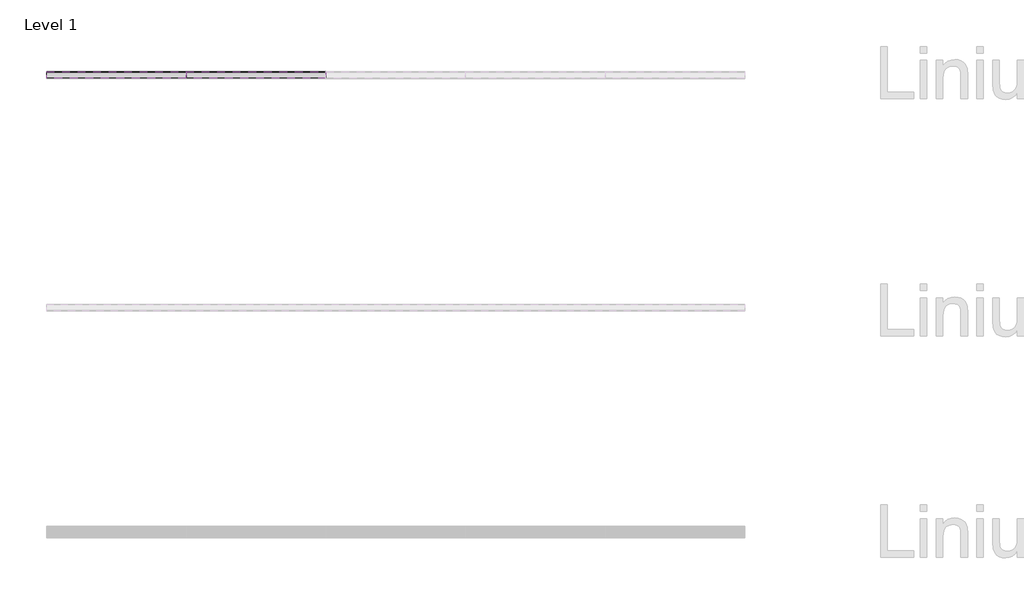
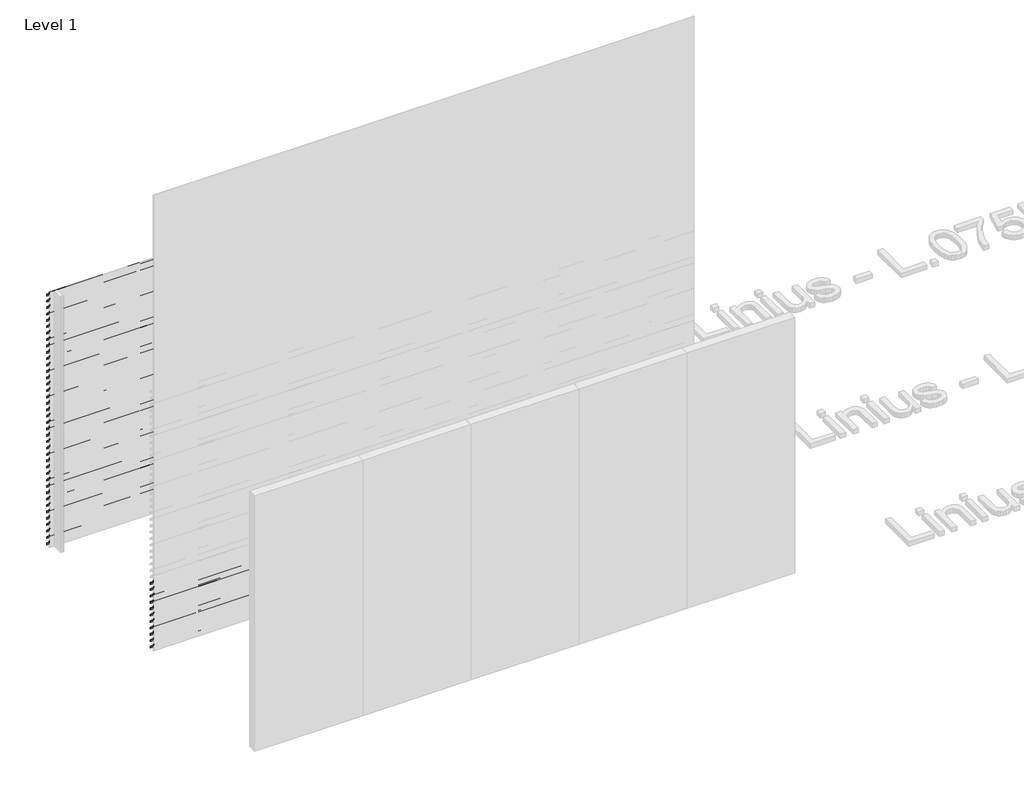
# One storey, part 11 of 55: 85 proxies.
"""IFC4 building model written with IfcOpenShell, lengths in millimetres."""

import ifcopenshell
import ifcopenshell.guid

model = None  # the IFC model being written
_history = None  # IfcOwnerHistory: only IFC2X3 demands one
_inside = {}  # id of a spatial element -> (the spatial element, [elements in it])
_under = {}  # id of a project, library or spatial element -> (it, [spatial elements below it])
_declared = {}  # id of a project -> (the project, [libraries it declares])
_typed = {}  # id of a type object -> (the type object, [elements of that type])
_made_of = {}  # id of a material, layer set ... -> (it, [elements and type objects made of it])


def new_model(schema):
    """Start an empty IFC model of exactly this schema.

    Asked for "IFC4X3", IfcOpenShell would pick the latest addendum, in which some entities
    have other attributes; the version numbers below select the first issue.
    IFC2X3 requires an IfcOwnerHistory on every rooted entity: one is made here for all.
    """
    global model, _history
    if schema == "IFC4X3":
        model = ifcopenshell.file(schema_version=(4, 3, 0, 0))
    else:
        model = ifcopenshell.file(schema=schema)
    _inside.clear()
    _under.clear()
    _declared.clear()
    _typed.clear()
    _made_of.clear()
    _history = None
    if model.schema == "IFC2X3":
        org = make("IfcOrganization", Name="unknown")
        user = make(
            "IfcPersonAndOrganization",
            ThePerson=make("IfcPerson", FamilyName="unknown"),
            TheOrganization=org,
        )
        app = make(
            "IfcApplication",
            ApplicationDeveloper=org,
            Version="unknown",
            ApplicationFullName="unknown",
            ApplicationIdentifier="unknown",
        )
        _history = make(
            "IfcOwnerHistory",
            OwningUser=user,
            OwningApplication=app,
            ChangeAction="ADDED",
            CreationDate=0,
        )
    return model


def make(cls, **values):
    """One entity of the class cls with the attributes given. An attribute that is None is left unset."""
    return model.create_entity(
        cls, **{name: value for name, value in values.items() if value is not None}
    )


def rooted(cls, **values):
    """An entity with a GlobalId (a new one), such as an element, a storey or a relation."""
    return make(cls, GlobalId=ifcopenshell.guid.new(), OwnerHistory=_history, **values)


def si_unit(unit_type, name, prefix=None):
    """IfcSIUnit, for example si_unit("LENGTHUNIT", "METRE", prefix="MILLI")."""
    return make("IfcSIUnit", UnitType=unit_type, Prefix=prefix, Name=name)


def assignment(units):
    """IfcUnitAssignment: the units of a project."""
    return None if units is None else make("IfcUnitAssignment", Units=units)


def point(xyz):
    """IfcCartesianPoint."""
    return None if xyz is None else make("IfcCartesianPoint", Coordinates=xyz)


def direction(xyz):
    """IfcDirection."""
    return None if xyz is None else make("IfcDirection", DirectionRatios=xyz)


def frame(location, z_axis=None, x_axis=None):
    """IfcAxis2Placement3D, a coordinate frame: its origin and axes. An axis left out is left unset."""
    return make(
        "IfcAxis2Placement3D",
        Location=point(location),
        Axis=direction(z_axis),
        RefDirection=direction(x_axis),
    )


def origin():
    """The frame at (0, 0, 0) with its axes left unset."""
    return frame((0.0, 0.0, 0.0))


def place(relative_to, where):
    """IfcLocalPlacement: puts the frame where relative to a parent placement (None: the world)."""
    return make(
        "IfcLocalPlacement", PlacementRelTo=relative_to, RelativePlacement=where
    )


def context(
    kind, dimensions, precision=None, world=None, true_north=None, identifier=None
):
    """IfcGeometricRepresentationContext, for example the 3D "Model" context."""
    return make(
        "IfcGeometricRepresentationContext",
        ContextIdentifier=identifier,
        ContextType=kind,
        CoordinateSpaceDimension=dimensions,
        Precision=precision,
        WorldCoordinateSystem=world,
        TrueNorth=true_north,
    )


def project(units=None, contexts=None):
    """IfcProject with its units and contexts."""
    return rooted(
        "IfcProject",
        Name="project",
        RepresentationContexts=contexts,
        UnitsInContext=assignment(units),
    )


def spatial(cls, under=None, at=None, **own):
    """A site, building, storey or space (cls), placed at a placement, below another one or the project."""
    s = rooted(cls, ObjectPlacement=at, **own)
    if under is not None:
        _under.setdefault(under.id(), (under, []))[1].append(s)
    return s


def polyline(points):
    """IfcPolyline through the points."""
    return make("IfcPolyline", Points=[point(p) for p in points])


def outline(outer, holes=None, kind="AREA"):
    """IfcArbitraryClosedProfileDef: a profile drawn as a closed curve; with holes, ...WithVoids."""
    if holes is None:
        return make("IfcArbitraryClosedProfileDef", ProfileType=kind, OuterCurve=outer)
    return make(
        "IfcArbitraryProfileDefWithVoids",
        ProfileType=kind,
        OuterCurve=outer,
        InnerCurves=holes,
    )


def extrude(swept, where, along, depth):
    """IfcExtrudedAreaSolid: the profile swept, set in the frame where, extruded along a direction by depth."""
    return make(
        "IfcExtrudedAreaSolid",
        SweptArea=swept,
        Position=where,
        ExtrudedDirection=direction(along),
        Depth=depth,
    )


def shape(context_of_items, identifier, shape_type, items):
    """IfcShapeRepresentation: the items that make up one representation, for example the "Body"."""
    return make(
        "IfcShapeRepresentation",
        ContextOfItems=context_of_items,
        RepresentationIdentifier=identifier,
        RepresentationType=shape_type,
        Items=items,
    )


def made_of(thing, what):
    """Note that an element or type object is made of a material, layer set ...; save() writes the relation."""
    if what is not None:
        _made_of.setdefault(what.id(), (what, []))[1].append(thing)
    return thing


def element(
    cls,
    number,
    at=None,
    inside=None,
    cuts=None,
    type_object=None,
    material=None,
    context=None,
    identifier="Body",
    shape_type=None,
    held_by="IfcProductDefinitionShape",
    body=None,
    shapes=None,
    **own,
):
    """One element of the class cls, such as IfcWall. Its Tag is "e" and its number.

    at: its placement. inside: the storey or other place that contains it. cuts: it is an
    opening in that element (IfcRelVoidsElement). A single representation is given by context,
    identifier, shape_type and body (its items); several are given by shapes. held_by: the class
    of the entity that holds the representations. save() writes the other relations.
    """
    e = rooted(cls, Tag="e%d" % number, ObjectPlacement=at, **own)
    if body is not None:
        shapes = [shape(context, identifier, shape_type, body)]
    if shapes is not None:
        e.Representation = make(held_by, Representations=shapes)
    if inside is not None:
        _inside.setdefault(inside.id(), (inside, []))[1].append(e)
    if cuts is not None:
        rooted(
            "IfcRelVoidsElement", RelatingBuildingElement=cuts, RelatedOpeningElement=e
        )
    if type_object is not None:
        _typed.setdefault(type_object.id(), (type_object, []))[1].append(e)
    return made_of(e, material)


def aggregate(whole, parts):
    """IfcRelAggregates: a whole, such as a stair, and the parts it consists of."""
    return rooted("IfcRelAggregates", RelatingObject=whole, RelatedObjects=parts)


def save(model, path):
    """Write the relations noted so far, then the file.

    IfcRelAggregates (storeys below a building ...), IfcRelContainedInSpatialStructure (elements
    in a storey), IfcRelDefinesByType, IfcRelAssociatesMaterial and IfcRelDeclares: one each for
    every whole, place, type object, material and project.
    """
    for whole, parts in _under.values():
        aggregate(whole, parts)
    for where, things in _inside.values():
        rooted(
            "IfcRelContainedInSpatialStructure",
            RelatedElements=things,
            RelatingStructure=where,
        )
    for kind, things in _typed.values():
        rooted("IfcRelDefinesByType", RelatedObjects=things, RelatingType=kind)
    for what, things in _made_of.values():
        rooted("IfcRelAssociatesMaterial", RelatedObjects=things, RelatingMaterial=what)
    for by, libraries in _declared.values():
        rooted("IfcRelDeclares", RelatingContext=by, RelatedDefinitions=libraries)
    model.write(path)


model = new_model("IFC4")

# Units and contexts
model_context = context("Model", 3, world=origin())
ifc_project = project(units=[si_unit("LENGTHUNIT", "METRE", prefix="MILLI")], contexts=[model_context])

# Site, building, storey
site = spatial("IfcSite", under=ifc_project)
building = spatial("IfcBuilding", under=site)
storey = spatial("IfcBuildingStorey", under=building, Name="Level 1", Elevation=0.0)

# Proxies
placement = place(None, origin())
element("IfcBuildingElementProxy", 1, Name="Wall Sweeps", at=placement, inside=storey, context=model_context, shape_type="SweptSolid", body=[
    extrude(outline(polyline([(14081.0540136, 2943.5), (14081.0540136, 2923.5), (14079.8040136, 2924.2216933), (14079.8040136, 2942.7872415), (14026.0540136, 2980.3158044), (14026.0540136, 3000.0), (14027.3040136, 3000.0), (14027.3040136, 2981.0285629), (14081.0540136, 2943.5)])), frame((466.6208097, 0.0, 0.0), z_axis=(1.0, 0.0, 0.0), x_axis=(0.0, 1.0, 0.0)), (0.0, 0.0, 1.0), 1200.0000002),
])
element("IfcBuildingElementProxy", 2, Name="Wall Sweeps", at=placement, inside=storey, context=model_context, shape_type="SweptSolid", body=[
    extrude(outline(polyline([(14081.0540136, 2868.5), (14081.0540136, 2848.5), (14079.8040136, 2849.2216933), (14079.8040136, 2867.7872415), (14026.0540136, 2905.3158044), (14026.0540136, 2925.0), (14027.3040136, 2925.0), (14027.3040136, 2906.0285629), (14081.0540136, 2868.5)])), frame((466.6208097, 0.0, 0.0), z_axis=(1.0, 0.0, 0.0), x_axis=(0.0, 1.0, 0.0)), (0.0, 0.0, 1.0), 1200.0000002),
])
element("IfcBuildingElementProxy", 3, Name="Wall Sweeps", at=placement, inside=storey, context=model_context, shape_type="SweptSolid", body=[
    extrude(outline(polyline([(14081.0540136, 2793.5), (14081.0540136, 2773.5), (14079.8040136, 2774.2216933), (14079.8040136, 2792.7872415), (14026.0540136, 2830.3158044), (14026.0540136, 2850.0), (14027.3040136, 2850.0), (14027.3040136, 2831.0285629), (14081.0540136, 2793.5)])), frame((466.6208097, 0.0, 0.0), z_axis=(1.0, 0.0, 0.0), x_axis=(0.0, 1.0, 0.0)), (0.0, 0.0, 1.0), 1200.0000002),
])
element("IfcBuildingElementProxy", 4, Name="Wall Sweeps", at=placement, inside=storey, context=model_context, shape_type="SweptSolid", body=[
    extrude(outline(polyline([(14081.0540136, 2718.5), (14081.0540136, 2698.5), (14079.8040136, 2699.2216933), (14079.8040136, 2717.7872415), (14026.0540136, 2755.3158044), (14026.0540136, 2775.0), (14027.3040136, 2775.0), (14027.3040136, 2756.0285629), (14081.0540136, 2718.5)])), frame((466.6208097, 0.0, 0.0), z_axis=(1.0, 0.0, 0.0), x_axis=(0.0, 1.0, 0.0)), (0.0, 0.0, 1.0), 1200.0000002),
])
element("IfcBuildingElementProxy", 5, Name="Wall Sweeps", at=placement, inside=storey, context=model_context, shape_type="SweptSolid", body=[
    extrude(outline(polyline([(14081.0540136, 2643.5), (14081.0540136, 2623.5), (14079.8040136, 2624.2216933), (14079.8040136, 2642.7872415), (14026.0540136, 2680.3158044), (14026.0540136, 2700.0), (14027.3040136, 2700.0), (14027.3040136, 2681.0285629), (14081.0540136, 2643.5)])), frame((466.6208097, 0.0, 0.0), z_axis=(1.0, 0.0, 0.0), x_axis=(0.0, 1.0, 0.0)), (0.0, 0.0, 1.0), 1200.0000002),
])
element("IfcBuildingElementProxy", 6, Name="Wall Sweeps", at=placement, inside=storey, context=model_context, shape_type="SweptSolid", body=[
    extrude(outline(polyline([(14081.0540136, 2568.5), (14081.0540136, 2548.5), (14079.8040136, 2549.2216933), (14079.8040136, 2567.7872415), (14026.0540136, 2605.3158044), (14026.0540136, 2625.0), (14027.3040136, 2625.0), (14027.3040136, 2606.0285629), (14081.0540136, 2568.5)])), frame((466.6208097, 0.0, 0.0), z_axis=(1.0, 0.0, 0.0), x_axis=(0.0, 1.0, 0.0)), (0.0, 0.0, 1.0), 1200.0000002),
])
element("IfcBuildingElementProxy", 7, Name="Wall Sweeps", at=placement, inside=storey, context=model_context, shape_type="SweptSolid", body=[
    extrude(outline(polyline([(14081.0540136, 2493.5), (14081.0540136, 2473.5), (14079.8040136, 2474.2216933), (14079.8040136, 2492.7872415), (14026.0540136, 2530.3158044), (14026.0540136, 2550.0), (14027.3040136, 2550.0), (14027.3040136, 2531.0285629), (14081.0540136, 2493.5)])), frame((466.6208097, 0.0, 0.0), z_axis=(1.0, 0.0, 0.0), x_axis=(0.0, 1.0, 0.0)), (0.0, 0.0, 1.0), 1200.0000002),
])
element("IfcBuildingElementProxy", 8, Name="Wall Sweeps", at=placement, inside=storey, context=model_context, shape_type="SweptSolid", body=[
    extrude(outline(polyline([(14081.0540136, 2418.5), (14081.0540136, 2398.5), (14079.8040136, 2399.2216933), (14079.8040136, 2417.7872415), (14026.0540136, 2455.3158044), (14026.0540136, 2475.0), (14027.3040136, 2475.0), (14027.3040136, 2456.0285629), (14081.0540136, 2418.5)])), frame((466.6208097, 0.0, 0.0), z_axis=(1.0, 0.0, 0.0), x_axis=(0.0, 1.0, 0.0)), (0.0, 0.0, 1.0), 1200.0000002),
])
element("IfcBuildingElementProxy", 9, Name="Wall Sweeps", at=placement, inside=storey, context=model_context, shape_type="SweptSolid", body=[
    extrude(outline(polyline([(14081.0540136, 2343.5), (14081.0540136, 2323.5), (14079.8040136, 2324.2216933), (14079.8040136, 2342.7872415), (14026.0540136, 2380.3158044), (14026.0540136, 2400.0), (14027.3040136, 2400.0), (14027.3040136, 2381.0285629), (14081.0540136, 2343.5)])), frame((466.6208097, 0.0, 0.0), z_axis=(1.0, 0.0, 0.0), x_axis=(0.0, 1.0, 0.0)), (0.0, 0.0, 1.0), 1200.0000002),
])
element("IfcBuildingElementProxy", 10, Name="Wall Sweeps", at=placement, inside=storey, context=model_context, shape_type="SweptSolid", body=[
    extrude(outline(polyline([(14081.0540136, 2268.5), (14081.0540136, 2248.5), (14079.8040136, 2249.2216933), (14079.8040136, 2267.7872415), (14026.0540136, 2305.3158044), (14026.0540136, 2325.0), (14027.3040136, 2325.0), (14027.3040136, 2306.0285629), (14081.0540136, 2268.5)])), frame((466.6208097, 0.0, 0.0), z_axis=(1.0, 0.0, 0.0), x_axis=(0.0, 1.0, 0.0)), (0.0, 0.0, 1.0), 1200.0000002),
])
element("IfcBuildingElementProxy", 11, Name="Wall Sweeps", at=placement, inside=storey, context=model_context, shape_type="SweptSolid", body=[
    extrude(outline(polyline([(14081.0540136, 2193.5), (14081.0540136, 2173.5), (14079.8040136, 2174.2216933), (14079.8040136, 2192.7872415), (14026.0540136, 2230.3158044), (14026.0540136, 2250.0), (14027.3040136, 2250.0), (14027.3040136, 2231.0285629), (14081.0540136, 2193.5)])), frame((466.6208097, 0.0, 0.0), z_axis=(1.0, 0.0, 0.0), x_axis=(0.0, 1.0, 0.0)), (0.0, 0.0, 1.0), 1200.0000002),
])
element("IfcBuildingElementProxy", 12, Name="Wall Sweeps", at=placement, inside=storey, context=model_context, shape_type="SweptSolid", body=[
    extrude(outline(polyline([(14081.0540136, 2118.5), (14081.0540136, 2098.5), (14079.8040136, 2099.2216933), (14079.8040136, 2117.7872415), (14026.0540136, 2155.3158044), (14026.0540136, 2175.0), (14027.3040136, 2175.0), (14027.3040136, 2156.0285629), (14081.0540136, 2118.5)])), frame((466.6208097, 0.0, 0.0), z_axis=(1.0, 0.0, 0.0), x_axis=(0.0, 1.0, 0.0)), (0.0, 0.0, 1.0), 1200.0000002),
])
element("IfcBuildingElementProxy", 13, Name="Wall Sweeps", at=placement, inside=storey, context=model_context, shape_type="SweptSolid", body=[
    extrude(outline(polyline([(14081.0540136, 2043.5), (14081.0540136, 2023.5), (14079.8040136, 2024.2216933), (14079.8040136, 2042.7872415), (14026.0540136, 2080.3158044), (14026.0540136, 2100.0), (14027.3040136, 2100.0), (14027.3040136, 2081.0285629), (14081.0540136, 2043.5)])), frame((466.6208097, 0.0, 0.0), z_axis=(1.0, 0.0, 0.0), x_axis=(0.0, 1.0, 0.0)), (0.0, 0.0, 1.0), 1200.0000002),
])
element("IfcBuildingElementProxy", 14, Name="Wall Sweeps", at=placement, inside=storey, context=model_context, shape_type="SweptSolid", body=[
    extrude(outline(polyline([(14081.0540136, 1968.5), (14081.0540136, 1948.5), (14079.8040136, 1949.2216933), (14079.8040136, 1967.7872415), (14026.0540136, 2005.3158044), (14026.0540136, 2025.0), (14027.3040136, 2025.0), (14027.3040136, 2006.0285629), (14081.0540136, 1968.5)])), frame((466.6208097, 0.0, 0.0), z_axis=(1.0, 0.0, 0.0), x_axis=(0.0, 1.0, 0.0)), (0.0, 0.0, 1.0), 1200.0000002),
])
element("IfcBuildingElementProxy", 15, Name="Wall Sweeps", at=placement, inside=storey, context=model_context, shape_type="SweptSolid", body=[
    extrude(outline(polyline([(14081.0540136, 1893.5), (14081.0540136, 1873.5), (14079.8040136, 1874.2216933), (14079.8040136, 1892.7872415), (14026.0540136, 1930.3158044), (14026.0540136, 1950.0), (14027.3040136, 1950.0), (14027.3040136, 1931.0285629), (14081.0540136, 1893.5)])), frame((466.6208097, 0.0, 0.0), z_axis=(1.0, 0.0, 0.0), x_axis=(0.0, 1.0, 0.0)), (0.0, 0.0, 1.0), 1200.0000002),
])
element("IfcBuildingElementProxy", 16, Name="Wall Sweeps", at=placement, inside=storey, context=model_context, shape_type="SweptSolid", body=[
    extrude(outline(polyline([(14081.0540136, 1818.5), (14081.0540136, 1798.5), (14079.8040136, 1799.2216933), (14079.8040136, 1817.7872415), (14026.0540136, 1855.3158044), (14026.0540136, 1875.0), (14027.3040136, 1875.0), (14027.3040136, 1856.0285629), (14081.0540136, 1818.5)])), frame((466.6208097, 0.0, 0.0), z_axis=(1.0, 0.0, 0.0), x_axis=(0.0, 1.0, 0.0)), (0.0, 0.0, 1.0), 1200.0000002),
])
element("IfcBuildingElementProxy", 17, Name="Wall Sweeps", at=placement, inside=storey, context=model_context, shape_type="SweptSolid", body=[
    extrude(outline(polyline([(14081.0540136, 1743.5), (14081.0540136, 1723.5), (14079.8040136, 1724.2216933), (14079.8040136, 1742.7872415), (14026.0540136, 1780.3158044), (14026.0540136, 1800.0), (14027.3040136, 1800.0), (14027.3040136, 1781.0285629), (14081.0540136, 1743.5)])), frame((466.6208097, 0.0, 0.0), z_axis=(1.0, 0.0, 0.0), x_axis=(0.0, 1.0, 0.0)), (0.0, 0.0, 1.0), 1200.0000002),
])
element("IfcBuildingElementProxy", 18, Name="Wall Sweeps", at=placement, inside=storey, context=model_context, shape_type="SweptSolid", body=[
    extrude(outline(polyline([(14081.0540136, 1668.5), (14081.0540136, 1648.5), (14079.8040136, 1649.2216933), (14079.8040136, 1667.7872415), (14026.0540136, 1705.3158044), (14026.0540136, 1725.0), (14027.3040136, 1725.0), (14027.3040136, 1706.0285629), (14081.0540136, 1668.5)])), frame((466.6208097, 0.0, 0.0), z_axis=(1.0, 0.0, 0.0), x_axis=(0.0, 1.0, 0.0)), (0.0, 0.0, 1.0), 1200.0000002),
])
element("IfcBuildingElementProxy", 19, Name="Wall Sweeps", at=placement, inside=storey, context=model_context, shape_type="SweptSolid", body=[
    extrude(outline(polyline([(14081.0540136, 1593.5), (14081.0540136, 1573.5), (14079.8040136, 1574.2216933), (14079.8040136, 1592.7872415), (14026.0540136, 1630.3158044), (14026.0540136, 1650.0), (14027.3040136, 1650.0), (14027.3040136, 1631.0285629), (14081.0540136, 1593.5)])), frame((466.6208097, 0.0, 0.0), z_axis=(1.0, 0.0, 0.0), x_axis=(0.0, 1.0, 0.0)), (0.0, 0.0, 1.0), 1200.0000002),
])
element("IfcBuildingElementProxy", 20, Name="Wall Sweeps", at=placement, inside=storey, context=model_context, shape_type="SweptSolid", body=[
    extrude(outline(polyline([(14081.0540136, 1518.5), (14081.0540136, 1498.5), (14079.8040136, 1499.2216933), (14079.8040136, 1517.7872415), (14026.0540136, 1555.3158044), (14026.0540136, 1575.0), (14027.3040136, 1575.0), (14027.3040136, 1556.0285629), (14081.0540136, 1518.5)])), frame((466.6208097, 0.0, 0.0), z_axis=(1.0, 0.0, 0.0), x_axis=(0.0, 1.0, 0.0)), (0.0, 0.0, 1.0), 1200.0000002),
])
element("IfcBuildingElementProxy", 21, Name="Wall Sweeps", at=placement, inside=storey, context=model_context, shape_type="SweptSolid", body=[
    extrude(outline(polyline([(14081.0540136, 1443.5), (14081.0540136, 1423.5), (14079.8040136, 1424.2216933), (14079.8040136, 1442.7872415), (14026.0540136, 1480.3158044), (14026.0540136, 1500.0), (14027.3040136, 1500.0), (14027.3040136, 1481.0285629), (14081.0540136, 1443.5)])), frame((466.6208097, 0.0, 0.0), z_axis=(1.0, 0.0, 0.0), x_axis=(0.0, 1.0, 0.0)), (0.0, 0.0, 1.0), 1200.0000002),
])
element("IfcBuildingElementProxy", 22, Name="Wall Sweeps", at=placement, inside=storey, context=model_context, shape_type="SweptSolid", body=[
    extrude(outline(polyline([(14081.0540136, 1368.5), (14081.0540136, 1348.5), (14079.8040136, 1349.2216933), (14079.8040136, 1367.7872415), (14026.0540136, 1405.3158044), (14026.0540136, 1425.0), (14027.3040136, 1425.0), (14027.3040136, 1406.0285629), (14081.0540136, 1368.5)])), frame((466.6208097, 0.0, 0.0), z_axis=(1.0, 0.0, 0.0), x_axis=(0.0, 1.0, 0.0)), (0.0, 0.0, 1.0), 1200.0000002),
])
element("IfcBuildingElementProxy", 23, Name="Wall Sweeps", at=placement, inside=storey, context=model_context, shape_type="SweptSolid", body=[
    extrude(outline(polyline([(14081.0540136, 1293.5), (14081.0540136, 1273.5), (14079.8040136, 1274.2216933), (14079.8040136, 1292.7872415), (14026.0540136, 1330.3158044), (14026.0540136, 1350.0), (14027.3040136, 1350.0), (14027.3040136, 1331.0285629), (14081.0540136, 1293.5)])), frame((466.6208097, 0.0, 0.0), z_axis=(1.0, 0.0, 0.0), x_axis=(0.0, 1.0, 0.0)), (0.0, 0.0, 1.0), 1200.0000002),
])
element("IfcBuildingElementProxy", 24, Name="Wall Sweeps", at=placement, inside=storey, context=model_context, shape_type="SweptSolid", body=[
    extrude(outline(polyline([(14081.0540136, 1218.5), (14081.0540136, 1198.5), (14079.8040136, 1199.2216933), (14079.8040136, 1217.7872415), (14026.0540136, 1255.3158044), (14026.0540136, 1275.0), (14027.3040136, 1275.0), (14027.3040136, 1256.0285629), (14081.0540136, 1218.5)])), frame((466.6208097, 0.0, 0.0), z_axis=(1.0, 0.0, 0.0), x_axis=(0.0, 1.0, 0.0)), (0.0, 0.0, 1.0), 1200.0000002),
])
element("IfcBuildingElementProxy", 25, Name="Wall Sweeps", at=placement, inside=storey, context=model_context, shape_type="SweptSolid", body=[
    extrude(outline(polyline([(14081.0540136, 1143.5), (14081.0540136, 1123.5), (14079.8040136, 1124.2216933), (14079.8040136, 1142.7872415), (14026.0540136, 1180.3158044), (14026.0540136, 1200.0), (14027.3040136, 1200.0), (14027.3040136, 1181.0285629), (14081.0540136, 1143.5)])), frame((466.6208097, 0.0, 0.0), z_axis=(1.0, 0.0, 0.0), x_axis=(0.0, 1.0, 0.0)), (0.0, 0.0, 1.0), 1200.0000002),
])
element("IfcBuildingElementProxy", 26, Name="Wall Sweeps", at=placement, inside=storey, context=model_context, shape_type="SweptSolid", body=[
    extrude(outline(polyline([(14081.0540136, 1068.5), (14081.0540136, 1048.5), (14079.8040136, 1049.2216933), (14079.8040136, 1067.7872415), (14026.0540136, 1105.3158044), (14026.0540136, 1125.0), (14027.3040136, 1125.0), (14027.3040136, 1106.0285629), (14081.0540136, 1068.5)])), frame((466.6208097, 0.0, 0.0), z_axis=(1.0, 0.0, 0.0), x_axis=(0.0, 1.0, 0.0)), (0.0, 0.0, 1.0), 1200.0000002),
])
element("IfcBuildingElementProxy", 27, Name="Wall Sweeps", at=placement, inside=storey, context=model_context, shape_type="SweptSolid", body=[
    extrude(outline(polyline([(14081.0540136, 993.5), (14081.0540136, 973.5), (14079.8040136, 974.2216933), (14079.8040136, 992.7872415), (14026.0540136, 1030.3158044), (14026.0540136, 1050.0), (14027.3040136, 1050.0), (14027.3040136, 1031.0285629), (14081.0540136, 993.5)])), frame((466.6208097, 0.0, 0.0), z_axis=(1.0, 0.0, 0.0), x_axis=(0.0, 1.0, 0.0)), (0.0, 0.0, 1.0), 1200.0000002),
])
element("IfcBuildingElementProxy", 28, Name="Wall Sweeps", at=placement, inside=storey, context=model_context, shape_type="SweptSolid", body=[
    extrude(outline(polyline([(14081.0540136, 918.5), (14081.0540136, 898.5), (14079.8040136, 899.2216933), (14079.8040136, 917.7872415), (14026.0540136, 955.3158044), (14026.0540136, 975.0), (14027.3040136, 975.0), (14027.3040136, 956.0285629), (14081.0540136, 918.5)])), frame((466.6208097, 0.0, 0.0), z_axis=(1.0, 0.0, 0.0), x_axis=(0.0, 1.0, 0.0)), (0.0, 0.0, 1.0), 1200.0000002),
])
element("IfcBuildingElementProxy", 29, Name="Wall Sweeps", at=placement, inside=storey, context=model_context, shape_type="SweptSolid", body=[
    extrude(outline(polyline([(14081.0540136, 843.5), (14081.0540136, 823.5), (14079.8040136, 824.2216933), (14079.8040136, 842.7872415), (14026.0540136, 880.3158044), (14026.0540136, 900.0), (14027.3040136, 900.0), (14027.3040136, 881.0285629), (14081.0540136, 843.5)])), frame((466.6208097, 0.0, 0.0), z_axis=(1.0, 0.0, 0.0), x_axis=(0.0, 1.0, 0.0)), (0.0, 0.0, 1.0), 1200.0000002),
])
element("IfcBuildingElementProxy", 30, Name="Wall Sweeps", at=placement, inside=storey, context=model_context, shape_type="SweptSolid", body=[
    extrude(outline(polyline([(14081.0540136, 768.5), (14081.0540136, 748.5), (14079.8040136, 749.2216933), (14079.8040136, 767.7872415), (14026.0540136, 805.3158044), (14026.0540136, 825.0), (14027.3040136, 825.0), (14027.3040136, 806.0285629), (14081.0540136, 768.5)])), frame((466.6208097, 0.0, 0.0), z_axis=(1.0, 0.0, 0.0), x_axis=(0.0, 1.0, 0.0)), (0.0, 0.0, 1.0), 1200.0000002),
])
element("IfcBuildingElementProxy", 31, Name="Wall Sweeps", at=placement, inside=storey, context=model_context, shape_type="SweptSolid", body=[
    extrude(outline(polyline([(14081.0540136, 693.5), (14081.0540136, 673.5), (14079.8040136, 674.2216933), (14079.8040136, 692.7872415), (14026.0540136, 730.3158044), (14026.0540136, 750.0), (14027.3040136, 750.0), (14027.3040136, 731.0285629), (14081.0540136, 693.5)])), frame((466.6208097, 0.0, 0.0), z_axis=(1.0, 0.0, 0.0), x_axis=(0.0, 1.0, 0.0)), (0.0, 0.0, 1.0), 1200.0000002),
])
element("IfcBuildingElementProxy", 32, Name="Wall Sweeps", at=placement, inside=storey, context=model_context, shape_type="SweptSolid", body=[
    extrude(outline(polyline([(14081.0540136, 618.5), (14081.0540136, 598.5), (14079.8040136, 599.2216933), (14079.8040136, 617.7872415), (14026.0540136, 655.3158044), (14026.0540136, 675.0), (14027.3040136, 675.0), (14027.3040136, 656.0285629), (14081.0540136, 618.5)])), frame((466.6208097, 0.0, 0.0), z_axis=(1.0, 0.0, 0.0), x_axis=(0.0, 1.0, 0.0)), (0.0, 0.0, 1.0), 1200.0000002),
])
element("IfcBuildingElementProxy", 33, Name="Wall Sweeps", at=placement, inside=storey, context=model_context, shape_type="SweptSolid", body=[
    extrude(outline(polyline([(14081.0540136, 543.5), (14081.0540136, 523.5), (14079.8040136, 524.2216933), (14079.8040136, 542.7872415), (14026.0540136, 580.3158044), (14026.0540136, 600.0), (14027.3040136, 600.0), (14027.3040136, 581.0285629), (14081.0540136, 543.5)])), frame((466.6208097, 0.0, 0.0), z_axis=(1.0, 0.0, 0.0), x_axis=(0.0, 1.0, 0.0)), (0.0, 0.0, 1.0), 1200.0000002),
])
element("IfcBuildingElementProxy", 34, Name="Wall Sweeps", at=placement, inside=storey, context=model_context, shape_type="SweptSolid", body=[
    extrude(outline(polyline([(14081.0540136, 468.5), (14081.0540136, 448.5), (14079.8040136, 449.2216933), (14079.8040136, 467.7872415), (14026.0540136, 505.3158044), (14026.0540136, 525.0), (14027.3040136, 525.0), (14027.3040136, 506.0285629), (14081.0540136, 468.5)])), frame((466.6208097, 0.0, 0.0), z_axis=(1.0, 0.0, 0.0), x_axis=(0.0, 1.0, 0.0)), (0.0, 0.0, 1.0), 1200.0000002),
])
element("IfcBuildingElementProxy", 35, Name="Wall Sweeps", at=placement, inside=storey, context=model_context, shape_type="SweptSolid", body=[
    extrude(outline(polyline([(14081.0540136, 393.5), (14081.0540136, 373.5), (14079.8040136, 374.2216933), (14079.8040136, 392.7872415), (14026.0540136, 430.3158044), (14026.0540136, 450.0), (14027.3040136, 450.0), (14027.3040136, 431.0285629), (14081.0540136, 393.5)])), frame((466.6208097, 0.0, 0.0), z_axis=(1.0, 0.0, 0.0), x_axis=(0.0, 1.0, 0.0)), (0.0, 0.0, 1.0), 1200.0000002),
])
element("IfcBuildingElementProxy", 36, Name="Wall Sweeps", at=placement, inside=storey, context=model_context, shape_type="SweptSolid", body=[
    extrude(outline(polyline([(14081.0540136, 318.5), (14081.0540136, 298.5), (14079.8040136, 299.2216933), (14079.8040136, 317.7872415), (14026.0540136, 355.3158044), (14026.0540136, 375.0), (14027.3040136, 375.0), (14027.3040136, 356.0285629), (14081.0540136, 318.5)])), frame((466.6208097, 0.0, 0.0), z_axis=(1.0, 0.0, 0.0), x_axis=(0.0, 1.0, 0.0)), (0.0, 0.0, 1.0), 1200.0000002),
])
element("IfcBuildingElementProxy", 37, Name="Wall Sweeps", at=placement, inside=storey, context=model_context, shape_type="SweptSolid", body=[
    extrude(outline(polyline([(14081.0540136, 243.5), (14081.0540136, 223.5), (14079.8040136, 224.2216933), (14079.8040136, 242.7872415), (14026.0540136, 280.3158044), (14026.0540136, 300.0), (14027.3040136, 300.0), (14027.3040136, 281.0285629), (14081.0540136, 243.5)])), frame((466.6208097, 0.0, 0.0), z_axis=(1.0, 0.0, 0.0), x_axis=(0.0, 1.0, 0.0)), (0.0, 0.0, 1.0), 1200.0000002),
])
element("IfcBuildingElementProxy", 38, Name="Wall Sweeps", at=placement, inside=storey, context=model_context, shape_type="SweptSolid", body=[
    extrude(outline(polyline([(14081.0540136, 168.5), (14081.0540136, 148.5), (14079.8040136, 149.2216933), (14079.8040136, 167.7872415), (14026.0540136, 205.3158044), (14026.0540136, 225.0), (14027.3040136, 225.0), (14027.3040136, 206.0285629), (14081.0540136, 168.5)])), frame((466.6208097, 0.0, 0.0), z_axis=(1.0, 0.0, 0.0), x_axis=(0.0, 1.0, 0.0)), (0.0, 0.0, 1.0), 1200.0000002),
])
element("IfcBuildingElementProxy", 39, Name="Wall Sweeps", at=placement, inside=storey, context=model_context, shape_type="SweptSolid", body=[
    extrude(outline(polyline([(14081.0540136, 93.5), (14081.0540136, 73.5), (14079.8040136, 74.2216933), (14079.8040136, 92.7872415), (14026.0540136, 130.3158044), (14026.0540136, 150.0), (14027.3040136, 150.0), (14027.3040136, 131.0285629), (14081.0540136, 93.5)])), frame((466.6208097, 0.0, 0.0), z_axis=(1.0, 0.0, 0.0), x_axis=(0.0, 1.0, 0.0)), (0.0, 0.0, 1.0), 1200.0000002),
])
element("IfcBuildingElementProxy", 40, Name="Wall Sweeps", at=placement, inside=storey, context=model_context, shape_type="SweptSolid", body=[
    extrude(outline(polyline([(14081.0540136, 18.5), (14081.0540136, -1.5), (14079.8040136, -0.7783067), (14079.8040136, 17.7872415), (14026.0540136, 55.3158044), (14026.0540136, 75.0), (14027.3040136, 75.0), (14027.3040136, 56.0285629), (14081.0540136, 18.5)])), frame((466.6208097, 0.0, 0.0), z_axis=(1.0, 0.0, 0.0), x_axis=(0.0, 1.0, 0.0)), (0.0, 0.0, 1.0), 1200.0000002),
])
element("IfcBuildingElementProxy", 41, Name="Wall Sweeps", at=placement, inside=storey, context=model_context, shape_type="SweptSolid", body=[
    extrude(outline(polyline([(14081.0540136, 2943.5), (14081.0540136, 2923.5), (14079.8040136, 2924.2216933), (14079.8040136, 2942.7872415), (14026.0540136, 2980.3158044), (14026.0540136, 3000.0), (14027.3040136, 3000.0), (14027.3040136, 2981.0285629), (14081.0540136, 2943.5)])), frame((1666.6208099, 0.0, 0.0), z_axis=(1.0, 0.0, 0.0), x_axis=(0.0, 1.0, 0.0)), (0.0, 0.0, 1.0), 1199.9999999),
])
element("IfcBuildingElementProxy", 42, Name="Wall Sweeps", at=placement, inside=storey, context=model_context, shape_type="SweptSolid", body=[
    extrude(outline(polyline([(14081.0540136, 2868.5), (14081.0540136, 2848.5), (14079.8040136, 2849.2216933), (14079.8040136, 2867.7872415), (14026.0540136, 2905.3158044), (14026.0540136, 2925.0), (14027.3040136, 2925.0), (14027.3040136, 2906.0285629), (14081.0540136, 2868.5)])), frame((1666.6208099, 0.0, 0.0), z_axis=(1.0, 0.0, 0.0), x_axis=(0.0, 1.0, 0.0)), (0.0, 0.0, 1.0), 1199.9999999),
])
element("IfcBuildingElementProxy", 43, Name="Wall Sweeps", at=placement, inside=storey, context=model_context, shape_type="SweptSolid", body=[
    extrude(outline(polyline([(14081.0540136, 2793.5), (14081.0540136, 2773.5), (14079.8040136, 2774.2216933), (14079.8040136, 2792.7872415), (14026.0540136, 2830.3158044), (14026.0540136, 2850.0), (14027.3040136, 2850.0), (14027.3040136, 2831.0285629), (14081.0540136, 2793.5)])), frame((1666.6208099, 0.0, 0.0), z_axis=(1.0, 0.0, 0.0), x_axis=(0.0, 1.0, 0.0)), (0.0, 0.0, 1.0), 1199.9999999),
])
element("IfcBuildingElementProxy", 44, Name="Wall Sweeps", at=placement, inside=storey, context=model_context, shape_type="SweptSolid", body=[
    extrude(outline(polyline([(14081.0540136, 2718.5), (14081.0540136, 2698.5), (14079.8040136, 2699.2216933), (14079.8040136, 2717.7872415), (14026.0540136, 2755.3158044), (14026.0540136, 2775.0), (14027.3040136, 2775.0), (14027.3040136, 2756.0285629), (14081.0540136, 2718.5)])), frame((1666.6208099, 0.0, 0.0), z_axis=(1.0, 0.0, 0.0), x_axis=(0.0, 1.0, 0.0)), (0.0, 0.0, 1.0), 1199.9999999),
])
element("IfcBuildingElementProxy", 45, Name="Wall Sweeps", at=placement, inside=storey, context=model_context, shape_type="SweptSolid", body=[
    extrude(outline(polyline([(14081.0540136, 2643.5), (14081.0540136, 2623.5), (14079.8040136, 2624.2216933), (14079.8040136, 2642.7872415), (14026.0540136, 2680.3158044), (14026.0540136, 2700.0), (14027.3040136, 2700.0), (14027.3040136, 2681.0285629), (14081.0540136, 2643.5)])), frame((1666.6208099, 0.0, 0.0), z_axis=(1.0, 0.0, 0.0), x_axis=(0.0, 1.0, 0.0)), (0.0, 0.0, 1.0), 1199.9999999),
])
element("IfcBuildingElementProxy", 46, Name="Wall Sweeps", at=placement, inside=storey, context=model_context, shape_type="SweptSolid", body=[
    extrude(outline(polyline([(14081.0540136, 2568.5), (14081.0540136, 2548.5), (14079.8040136, 2549.2216933), (14079.8040136, 2567.7872415), (14026.0540136, 2605.3158044), (14026.0540136, 2625.0), (14027.3040136, 2625.0), (14027.3040136, 2606.0285629), (14081.0540136, 2568.5)])), frame((1666.6208099, 0.0, 0.0), z_axis=(1.0, 0.0, 0.0), x_axis=(0.0, 1.0, 0.0)), (0.0, 0.0, 1.0), 1199.9999999),
])
element("IfcBuildingElementProxy", 47, Name="Wall Sweeps", at=placement, inside=storey, context=model_context, shape_type="SweptSolid", body=[
    extrude(outline(polyline([(14081.0540136, 2493.5), (14081.0540136, 2473.5), (14079.8040136, 2474.2216933), (14079.8040136, 2492.7872415), (14026.0540136, 2530.3158044), (14026.0540136, 2550.0), (14027.3040136, 2550.0), (14027.3040136, 2531.0285629), (14081.0540136, 2493.5)])), frame((1666.6208099, 0.0, 0.0), z_axis=(1.0, 0.0, 0.0), x_axis=(0.0, 1.0, 0.0)), (0.0, 0.0, 1.0), 1199.9999999),
])
element("IfcBuildingElementProxy", 48, Name="Wall Sweeps", at=placement, inside=storey, context=model_context, shape_type="SweptSolid", body=[
    extrude(outline(polyline([(14081.0540136, 2418.5), (14081.0540136, 2398.5), (14079.8040136, 2399.2216933), (14079.8040136, 2417.7872415), (14026.0540136, 2455.3158044), (14026.0540136, 2475.0), (14027.3040136, 2475.0), (14027.3040136, 2456.0285629), (14081.0540136, 2418.5)])), frame((1666.6208099, 0.0, 0.0), z_axis=(1.0, 0.0, 0.0), x_axis=(0.0, 1.0, 0.0)), (0.0, 0.0, 1.0), 1199.9999999),
])
element("IfcBuildingElementProxy", 49, Name="Wall Sweeps", at=placement, inside=storey, context=model_context, shape_type="SweptSolid", body=[
    extrude(outline(polyline([(14081.0540136, 2343.5), (14081.0540136, 2323.5), (14079.8040136, 2324.2216933), (14079.8040136, 2342.7872415), (14026.0540136, 2380.3158044), (14026.0540136, 2400.0), (14027.3040136, 2400.0), (14027.3040136, 2381.0285629), (14081.0540136, 2343.5)])), frame((1666.6208099, 0.0, 0.0), z_axis=(1.0, 0.0, 0.0), x_axis=(0.0, 1.0, 0.0)), (0.0, 0.0, 1.0), 1199.9999999),
])
element("IfcBuildingElementProxy", 50, Name="Wall Sweeps", at=placement, inside=storey, context=model_context, shape_type="SweptSolid", body=[
    extrude(outline(polyline([(14081.0540136, 2268.5), (14081.0540136, 2248.5), (14079.8040136, 2249.2216933), (14079.8040136, 2267.7872415), (14026.0540136, 2305.3158044), (14026.0540136, 2325.0), (14027.3040136, 2325.0), (14027.3040136, 2306.0285629), (14081.0540136, 2268.5)])), frame((1666.6208099, 0.0, 0.0), z_axis=(1.0, 0.0, 0.0), x_axis=(0.0, 1.0, 0.0)), (0.0, 0.0, 1.0), 1199.9999999),
])
element("IfcBuildingElementProxy", 51, Name="Wall Sweeps", at=placement, inside=storey, context=model_context, shape_type="SweptSolid", body=[
    extrude(outline(polyline([(14081.0540136, 2193.5), (14081.0540136, 2173.5), (14079.8040136, 2174.2216933), (14079.8040136, 2192.7872415), (14026.0540136, 2230.3158044), (14026.0540136, 2250.0), (14027.3040136, 2250.0), (14027.3040136, 2231.0285629), (14081.0540136, 2193.5)])), frame((1666.6208099, 0.0, 0.0), z_axis=(1.0, 0.0, 0.0), x_axis=(0.0, 1.0, 0.0)), (0.0, 0.0, 1.0), 1199.9999999),
])
element("IfcBuildingElementProxy", 52, Name="Wall Sweeps", at=placement, inside=storey, context=model_context, shape_type="SweptSolid", body=[
    extrude(outline(polyline([(14081.0540136, 2118.5), (14081.0540136, 2098.5), (14079.8040136, 2099.2216933), (14079.8040136, 2117.7872415), (14026.0540136, 2155.3158044), (14026.0540136, 2175.0), (14027.3040136, 2175.0), (14027.3040136, 2156.0285629), (14081.0540136, 2118.5)])), frame((1666.6208099, 0.0, 0.0), z_axis=(1.0, 0.0, 0.0), x_axis=(0.0, 1.0, 0.0)), (0.0, 0.0, 1.0), 1199.9999999),
])
element("IfcBuildingElementProxy", 53, Name="Wall Sweeps", at=placement, inside=storey, context=model_context, shape_type="SweptSolid", body=[
    extrude(outline(polyline([(14081.0540136, 2043.5), (14081.0540136, 2023.5), (14079.8040136, 2024.2216933), (14079.8040136, 2042.7872415), (14026.0540136, 2080.3158044), (14026.0540136, 2100.0), (14027.3040136, 2100.0), (14027.3040136, 2081.0285629), (14081.0540136, 2043.5)])), frame((1666.6208099, 0.0, 0.0), z_axis=(1.0, 0.0, 0.0), x_axis=(0.0, 1.0, 0.0)), (0.0, 0.0, 1.0), 1199.9999999),
])
element("IfcBuildingElementProxy", 54, Name="Wall Sweeps", at=placement, inside=storey, context=model_context, shape_type="SweptSolid", body=[
    extrude(outline(polyline([(14081.0540136, 1968.5), (14081.0540136, 1948.5), (14079.8040136, 1949.2216933), (14079.8040136, 1967.7872415), (14026.0540136, 2005.3158044), (14026.0540136, 2025.0), (14027.3040136, 2025.0), (14027.3040136, 2006.0285629), (14081.0540136, 1968.5)])), frame((1666.6208099, 0.0, 0.0), z_axis=(1.0, 0.0, 0.0), x_axis=(0.0, 1.0, 0.0)), (0.0, 0.0, 1.0), 1199.9999999),
])
element("IfcBuildingElementProxy", 55, Name="Wall Sweeps", at=placement, inside=storey, context=model_context, shape_type="SweptSolid", body=[
    extrude(outline(polyline([(14081.0540136, 1893.5), (14081.0540136, 1873.5), (14079.8040136, 1874.2216933), (14079.8040136, 1892.7872415), (14026.0540136, 1930.3158044), (14026.0540136, 1950.0), (14027.3040136, 1950.0), (14027.3040136, 1931.0285629), (14081.0540136, 1893.5)])), frame((1666.6208099, 0.0, 0.0), z_axis=(1.0, 0.0, 0.0), x_axis=(0.0, 1.0, 0.0)), (0.0, 0.0, 1.0), 1199.9999999),
])
element("IfcBuildingElementProxy", 56, Name="Wall Sweeps", at=placement, inside=storey, context=model_context, shape_type="SweptSolid", body=[
    extrude(outline(polyline([(14081.0540136, 1818.5), (14081.0540136, 1798.5), (14079.8040136, 1799.2216933), (14079.8040136, 1817.7872415), (14026.0540136, 1855.3158044), (14026.0540136, 1875.0), (14027.3040136, 1875.0), (14027.3040136, 1856.0285629), (14081.0540136, 1818.5)])), frame((1666.6208099, 0.0, 0.0), z_axis=(1.0, 0.0, 0.0), x_axis=(0.0, 1.0, 0.0)), (0.0, 0.0, 1.0), 1199.9999999),
])
element("IfcBuildingElementProxy", 57, Name="Wall Sweeps", at=placement, inside=storey, context=model_context, shape_type="SweptSolid", body=[
    extrude(outline(polyline([(14081.0540136, 1743.5), (14081.0540136, 1723.5), (14079.8040136, 1724.2216933), (14079.8040136, 1742.7872415), (14026.0540136, 1780.3158044), (14026.0540136, 1800.0), (14027.3040136, 1800.0), (14027.3040136, 1781.0285629), (14081.0540136, 1743.5)])), frame((1666.6208099, 0.0, 0.0), z_axis=(1.0, 0.0, 0.0), x_axis=(0.0, 1.0, 0.0)), (0.0, 0.0, 1.0), 1199.9999999),
])
element("IfcBuildingElementProxy", 58, Name="Wall Sweeps", at=placement, inside=storey, context=model_context, shape_type="SweptSolid", body=[
    extrude(outline(polyline([(14081.0540136, 1668.5), (14081.0540136, 1648.5), (14079.8040136, 1649.2216933), (14079.8040136, 1667.7872415), (14026.0540136, 1705.3158044), (14026.0540136, 1725.0), (14027.3040136, 1725.0), (14027.3040136, 1706.0285629), (14081.0540136, 1668.5)])), frame((1666.6208099, 0.0, 0.0), z_axis=(1.0, 0.0, 0.0), x_axis=(0.0, 1.0, 0.0)), (0.0, 0.0, 1.0), 1199.9999999),
])
element("IfcBuildingElementProxy", 59, Name="Wall Sweeps", at=placement, inside=storey, context=model_context, shape_type="SweptSolid", body=[
    extrude(outline(polyline([(14081.0540136, 1593.5), (14081.0540136, 1573.5), (14079.8040136, 1574.2216933), (14079.8040136, 1592.7872415), (14026.0540136, 1630.3158044), (14026.0540136, 1650.0), (14027.3040136, 1650.0), (14027.3040136, 1631.0285629), (14081.0540136, 1593.5)])), frame((1666.6208099, 0.0, 0.0), z_axis=(1.0, 0.0, 0.0), x_axis=(0.0, 1.0, 0.0)), (0.0, 0.0, 1.0), 1199.9999999),
])
element("IfcBuildingElementProxy", 60, Name="Wall Sweeps", at=placement, inside=storey, context=model_context, shape_type="SweptSolid", body=[
    extrude(outline(polyline([(14081.0540136, 1518.5), (14081.0540136, 1498.5), (14079.8040136, 1499.2216933), (14079.8040136, 1517.7872415), (14026.0540136, 1555.3158044), (14026.0540136, 1575.0), (14027.3040136, 1575.0), (14027.3040136, 1556.0285629), (14081.0540136, 1518.5)])), frame((1666.6208099, 0.0, 0.0), z_axis=(1.0, 0.0, 0.0), x_axis=(0.0, 1.0, 0.0)), (0.0, 0.0, 1.0), 1199.9999999),
])
element("IfcBuildingElementProxy", 61, Name="Wall Sweeps", at=placement, inside=storey, context=model_context, shape_type="SweptSolid", body=[
    extrude(outline(polyline([(14081.0540136, 1443.5), (14081.0540136, 1423.5), (14079.8040136, 1424.2216933), (14079.8040136, 1442.7872415), (14026.0540136, 1480.3158044), (14026.0540136, 1500.0), (14027.3040136, 1500.0), (14027.3040136, 1481.0285629), (14081.0540136, 1443.5)])), frame((1666.6208099, 0.0, 0.0), z_axis=(1.0, 0.0, 0.0), x_axis=(0.0, 1.0, 0.0)), (0.0, 0.0, 1.0), 1199.9999999),
])
element("IfcBuildingElementProxy", 62, Name="Wall Sweeps", at=placement, inside=storey, context=model_context, shape_type="SweptSolid", body=[
    extrude(outline(polyline([(14081.0540136, 1368.5), (14081.0540136, 1348.5), (14079.8040136, 1349.2216933), (14079.8040136, 1367.7872415), (14026.0540136, 1405.3158044), (14026.0540136, 1425.0), (14027.3040136, 1425.0), (14027.3040136, 1406.0285629), (14081.0540136, 1368.5)])), frame((1666.6208099, 0.0, 0.0), z_axis=(1.0, 0.0, 0.0), x_axis=(0.0, 1.0, 0.0)), (0.0, 0.0, 1.0), 1199.9999999),
])
element("IfcBuildingElementProxy", 63, Name="Wall Sweeps", at=placement, inside=storey, context=model_context, shape_type="SweptSolid", body=[
    extrude(outline(polyline([(14081.0540136, 1293.5), (14081.0540136, 1273.5), (14079.8040136, 1274.2216933), (14079.8040136, 1292.7872415), (14026.0540136, 1330.3158044), (14026.0540136, 1350.0), (14027.3040136, 1350.0), (14027.3040136, 1331.0285629), (14081.0540136, 1293.5)])), frame((1666.6208099, 0.0, 0.0), z_axis=(1.0, 0.0, 0.0), x_axis=(0.0, 1.0, 0.0)), (0.0, 0.0, 1.0), 1199.9999999),
])
element("IfcBuildingElementProxy", 64, Name="Wall Sweeps", at=placement, inside=storey, context=model_context, shape_type="SweptSolid", body=[
    extrude(outline(polyline([(14081.0540136, 1218.5), (14081.0540136, 1198.5), (14079.8040136, 1199.2216933), (14079.8040136, 1217.7872415), (14026.0540136, 1255.3158044), (14026.0540136, 1275.0), (14027.3040136, 1275.0), (14027.3040136, 1256.0285629), (14081.0540136, 1218.5)])), frame((1666.6208099, 0.0, 0.0), z_axis=(1.0, 0.0, 0.0), x_axis=(0.0, 1.0, 0.0)), (0.0, 0.0, 1.0), 1199.9999999),
])
element("IfcBuildingElementProxy", 65, Name="Wall Sweeps", at=placement, inside=storey, context=model_context, shape_type="SweptSolid", body=[
    extrude(outline(polyline([(14081.0540136, 1143.5), (14081.0540136, 1123.5), (14079.8040136, 1124.2216933), (14079.8040136, 1142.7872415), (14026.0540136, 1180.3158044), (14026.0540136, 1200.0), (14027.3040136, 1200.0), (14027.3040136, 1181.0285629), (14081.0540136, 1143.5)])), frame((1666.6208099, 0.0, 0.0), z_axis=(1.0, 0.0, 0.0), x_axis=(0.0, 1.0, 0.0)), (0.0, 0.0, 1.0), 1199.9999999),
])
element("IfcBuildingElementProxy", 66, Name="Wall Sweeps", at=placement, inside=storey, context=model_context, shape_type="SweptSolid", body=[
    extrude(outline(polyline([(14081.0540136, 1068.5), (14081.0540136, 1048.5), (14079.8040136, 1049.2216933), (14079.8040136, 1067.7872415), (14026.0540136, 1105.3158044), (14026.0540136, 1125.0), (14027.3040136, 1125.0), (14027.3040136, 1106.0285629), (14081.0540136, 1068.5)])), frame((1666.6208099, 0.0, 0.0), z_axis=(1.0, 0.0, 0.0), x_axis=(0.0, 1.0, 0.0)), (0.0, 0.0, 1.0), 1199.9999999),
])
element("IfcBuildingElementProxy", 67, Name="Wall Sweeps", at=placement, inside=storey, context=model_context, shape_type="SweptSolid", body=[
    extrude(outline(polyline([(14081.0540136, 993.5), (14081.0540136, 973.5), (14079.8040136, 974.2216933), (14079.8040136, 992.7872415), (14026.0540136, 1030.3158044), (14026.0540136, 1050.0), (14027.3040136, 1050.0), (14027.3040136, 1031.0285629), (14081.0540136, 993.5)])), frame((1666.6208099, 0.0, 0.0), z_axis=(1.0, 0.0, 0.0), x_axis=(0.0, 1.0, 0.0)), (0.0, 0.0, 1.0), 1199.9999999),
])
element("IfcBuildingElementProxy", 68, Name="Wall Sweeps", at=placement, inside=storey, context=model_context, shape_type="SweptSolid", body=[
    extrude(outline(polyline([(14081.0540136, 918.5), (14081.0540136, 898.5), (14079.8040136, 899.2216933), (14079.8040136, 917.7872415), (14026.0540136, 955.3158044), (14026.0540136, 975.0), (14027.3040136, 975.0), (14027.3040136, 956.0285629), (14081.0540136, 918.5)])), frame((1666.6208099, 0.0, 0.0), z_axis=(1.0, 0.0, 0.0), x_axis=(0.0, 1.0, 0.0)), (0.0, 0.0, 1.0), 1199.9999999),
])
element("IfcBuildingElementProxy", 69, Name="Wall Sweeps", at=placement, inside=storey, context=model_context, shape_type="SweptSolid", body=[
    extrude(outline(polyline([(14081.0540136, 843.5), (14081.0540136, 823.5), (14079.8040136, 824.2216933), (14079.8040136, 842.7872415), (14026.0540136, 880.3158044), (14026.0540136, 900.0), (14027.3040136, 900.0), (14027.3040136, 881.0285629), (14081.0540136, 843.5)])), frame((1666.6208099, 0.0, 0.0), z_axis=(1.0, 0.0, 0.0), x_axis=(0.0, 1.0, 0.0)), (0.0, 0.0, 1.0), 1199.9999999),
])
element("IfcBuildingElementProxy", 70, Name="Wall Sweeps", at=placement, inside=storey, context=model_context, shape_type="SweptSolid", body=[
    extrude(outline(polyline([(14081.0540136, 768.5), (14081.0540136, 748.5), (14079.8040136, 749.2216933), (14079.8040136, 767.7872415), (14026.0540136, 805.3158044), (14026.0540136, 825.0), (14027.3040136, 825.0), (14027.3040136, 806.0285629), (14081.0540136, 768.5)])), frame((1666.6208099, 0.0, 0.0), z_axis=(1.0, 0.0, 0.0), x_axis=(0.0, 1.0, 0.0)), (0.0, 0.0, 1.0), 1199.9999999),
])
element("IfcBuildingElementProxy", 71, Name="Wall Sweeps", at=placement, inside=storey, context=model_context, shape_type="SweptSolid", body=[
    extrude(outline(polyline([(14081.0540136, 693.5), (14081.0540136, 673.5), (14079.8040136, 674.2216933), (14079.8040136, 692.7872415), (14026.0540136, 730.3158044), (14026.0540136, 750.0), (14027.3040136, 750.0), (14027.3040136, 731.0285629), (14081.0540136, 693.5)])), frame((1666.6208099, 0.0, 0.0), z_axis=(1.0, 0.0, 0.0), x_axis=(0.0, 1.0, 0.0)), (0.0, 0.0, 1.0), 1199.9999999),
])
element("IfcBuildingElementProxy", 72, Name="Wall Sweeps", at=placement, inside=storey, context=model_context, shape_type="SweptSolid", body=[
    extrude(outline(polyline([(14081.0540136, 618.5), (14081.0540136, 598.5), (14079.8040136, 599.2216933), (14079.8040136, 617.7872415), (14026.0540136, 655.3158044), (14026.0540136, 675.0), (14027.3040136, 675.0), (14027.3040136, 656.0285629), (14081.0540136, 618.5)])), frame((1666.6208099, 0.0, 0.0), z_axis=(1.0, 0.0, 0.0), x_axis=(0.0, 1.0, 0.0)), (0.0, 0.0, 1.0), 1199.9999999),
])
element("IfcBuildingElementProxy", 73, Name="Wall Sweeps", at=placement, inside=storey, context=model_context, shape_type="SweptSolid", body=[
    extrude(outline(polyline([(14081.0540136, 543.5), (14081.0540136, 523.5), (14079.8040136, 524.2216933), (14079.8040136, 542.7872415), (14026.0540136, 580.3158044), (14026.0540136, 600.0), (14027.3040136, 600.0), (14027.3040136, 581.0285629), (14081.0540136, 543.5)])), frame((1666.6208099, 0.0, 0.0), z_axis=(1.0, 0.0, 0.0), x_axis=(0.0, 1.0, 0.0)), (0.0, 0.0, 1.0), 1199.9999999),
])
element("IfcBuildingElementProxy", 74, Name="Wall Sweeps", at=placement, inside=storey, context=model_context, shape_type="SweptSolid", body=[
    extrude(outline(polyline([(14081.0540136, 468.5), (14081.0540136, 448.5), (14079.8040136, 449.2216933), (14079.8040136, 467.7872415), (14026.0540136, 505.3158044), (14026.0540136, 525.0), (14027.3040136, 525.0), (14027.3040136, 506.0285629), (14081.0540136, 468.5)])), frame((1666.6208099, 0.0, 0.0), z_axis=(1.0, 0.0, 0.0), x_axis=(0.0, 1.0, 0.0)), (0.0, 0.0, 1.0), 1199.9999999),
])
element("IfcBuildingElementProxy", 75, Name="Wall Sweeps", at=placement, inside=storey, context=model_context, shape_type="SweptSolid", body=[
    extrude(outline(polyline([(12081.0540136, 768.5), (12081.0540136, 748.5), (12079.8040136, 749.2216933), (12079.8040136, 767.7872415), (12026.0540136, 805.3158044), (12026.0540136, 825.0), (12027.3040136, 825.0), (12027.3040136, 806.0285629), (12081.0540136, 768.5)])), frame((466.6208097, 0.0, 0.0), z_axis=(1.0, 0.0, 0.0), x_axis=(0.0, 1.0, 0.0)), (0.0, 0.0, 1.0), 6000.0),
])
element("IfcBuildingElementProxy", 76, Name="Wall Sweeps", at=placement, inside=storey, context=model_context, shape_type="SweptSolid", body=[
    extrude(outline(polyline([(12081.0540136, 693.5), (12081.0540136, 673.5), (12079.8040136, 674.2216933), (12079.8040136, 692.7872415), (12026.0540136, 730.3158044), (12026.0540136, 750.0), (12027.3040136, 750.0), (12027.3040136, 731.0285629), (12081.0540136, 693.5)])), frame((466.6208097, 0.0, 0.0), z_axis=(1.0, 0.0, 0.0), x_axis=(0.0, 1.0, 0.0)), (0.0, 0.0, 1.0), 6000.0),
])
element("IfcBuildingElementProxy", 77, Name="Wall Sweeps", at=placement, inside=storey, context=model_context, shape_type="SweptSolid", body=[
    extrude(outline(polyline([(12081.0540136, 618.5), (12081.0540136, 598.5), (12079.8040136, 599.2216933), (12079.8040136, 617.7872415), (12026.0540136, 655.3158044), (12026.0540136, 675.0), (12027.3040136, 675.0), (12027.3040136, 656.0285629), (12081.0540136, 618.5)])), frame((466.6208097, 0.0, 0.0), z_axis=(1.0, 0.0, 0.0), x_axis=(0.0, 1.0, 0.0)), (0.0, 0.0, 1.0), 6000.0),
])
element("IfcBuildingElementProxy", 78, Name="Wall Sweeps", at=placement, inside=storey, context=model_context, shape_type="SweptSolid", body=[
    extrude(outline(polyline([(12081.0540136, 543.5), (12081.0540136, 523.5), (12079.8040136, 524.2216933), (12079.8040136, 542.7872415), (12026.0540136, 580.3158044), (12026.0540136, 600.0), (12027.3040136, 600.0), (12027.3040136, 581.0285629), (12081.0540136, 543.5)])), frame((466.6208097, 0.0, 0.0), z_axis=(1.0, 0.0, 0.0), x_axis=(0.0, 1.0, 0.0)), (0.0, 0.0, 1.0), 6000.0),
])
element("IfcBuildingElementProxy", 79, Name="Wall Sweeps", at=placement, inside=storey, context=model_context, shape_type="SweptSolid", body=[
    extrude(outline(polyline([(12081.0540136, 468.5), (12081.0540136, 448.5), (12079.8040136, 449.2216933), (12079.8040136, 467.7872415), (12026.0540136, 505.3158044), (12026.0540136, 525.0), (12027.3040136, 525.0), (12027.3040136, 506.0285629), (12081.0540136, 468.5)])), frame((466.6208097, 0.0, 0.0), z_axis=(1.0, 0.0, 0.0), x_axis=(0.0, 1.0, 0.0)), (0.0, 0.0, 1.0), 6000.0),
])
element("IfcBuildingElementProxy", 80, Name="Wall Sweeps", at=placement, inside=storey, context=model_context, shape_type="SweptSolid", body=[
    extrude(outline(polyline([(12081.0540136, 393.5), (12081.0540136, 373.5), (12079.8040136, 374.2216933), (12079.8040136, 392.7872415), (12026.0540136, 430.3158044), (12026.0540136, 450.0), (12027.3040136, 450.0), (12027.3040136, 431.0285629), (12081.0540136, 393.5)])), frame((466.6208097, 0.0, 0.0), z_axis=(1.0, 0.0, 0.0), x_axis=(0.0, 1.0, 0.0)), (0.0, 0.0, 1.0), 6000.0),
])
element("IfcBuildingElementProxy", 81, Name="Wall Sweeps", at=placement, inside=storey, context=model_context, shape_type="SweptSolid", body=[
    extrude(outline(polyline([(12081.0540136, 318.5), (12081.0540136, 298.5), (12079.8040136, 299.2216933), (12079.8040136, 317.7872415), (12026.0540136, 355.3158044), (12026.0540136, 375.0), (12027.3040136, 375.0), (12027.3040136, 356.0285629), (12081.0540136, 318.5)])), frame((466.6208097, 0.0, 0.0), z_axis=(1.0, 0.0, 0.0), x_axis=(0.0, 1.0, 0.0)), (0.0, 0.0, 1.0), 6000.0),
])
element("IfcBuildingElementProxy", 82, Name="Wall Sweeps", at=placement, inside=storey, context=model_context, shape_type="SweptSolid", body=[
    extrude(outline(polyline([(12081.0540136, 243.5), (12081.0540136, 223.5), (12079.8040136, 224.2216933), (12079.8040136, 242.7872415), (12026.0540136, 280.3158044), (12026.0540136, 300.0), (12027.3040136, 300.0), (12027.3040136, 281.0285629), (12081.0540136, 243.5)])), frame((466.6208097, 0.0, 0.0), z_axis=(1.0, 0.0, 0.0), x_axis=(0.0, 1.0, 0.0)), (0.0, 0.0, 1.0), 6000.0),
])
element("IfcBuildingElementProxy", 83, Name="Wall Sweeps", at=placement, inside=storey, context=model_context, shape_type="SweptSolid", body=[
    extrude(outline(polyline([(12081.0540136, 168.5), (12081.0540136, 148.5), (12079.8040136, 149.2216933), (12079.8040136, 167.7872415), (12026.0540136, 205.3158044), (12026.0540136, 225.0), (12027.3040136, 225.0), (12027.3040136, 206.0285629), (12081.0540136, 168.5)])), frame((466.6208097, 0.0, 0.0), z_axis=(1.0, 0.0, 0.0), x_axis=(0.0, 1.0, 0.0)), (0.0, 0.0, 1.0), 6000.0),
])
element("IfcBuildingElementProxy", 84, Name="Wall Sweeps", at=placement, inside=storey, context=model_context, shape_type="SweptSolid", body=[
    extrude(outline(polyline([(12081.0540136, 93.5), (12081.0540136, 73.5), (12079.8040136, 74.2216933), (12079.8040136, 92.7872415), (12026.0540136, 130.3158044), (12026.0540136, 150.0), (12027.3040136, 150.0), (12027.3040136, 131.0285629), (12081.0540136, 93.5)])), frame((466.6208097, 0.0, 0.0), z_axis=(1.0, 0.0, 0.0), x_axis=(0.0, 1.0, 0.0)), (0.0, 0.0, 1.0), 6000.0),
])
element("IfcBuildingElementProxy", 85, Name="Wall Sweeps", at=placement, inside=storey, context=model_context, shape_type="SweptSolid", body=[
    extrude(outline(polyline([(12081.0540136, 18.5), (12081.0540136, -1.5), (12079.8040136, -0.7783067), (12079.8040136, 17.7872415), (12026.0540136, 55.3158044), (12026.0540136, 75.0), (12027.3040136, 75.0), (12027.3040136, 56.0285629), (12081.0540136, 18.5)])), frame((466.6208097, 0.0, 0.0), z_axis=(1.0, 0.0, 0.0), x_axis=(0.0, 1.0, 0.0)), (0.0, 0.0, 1.0), 6000.0),
])

save(model, "model.ifc")
